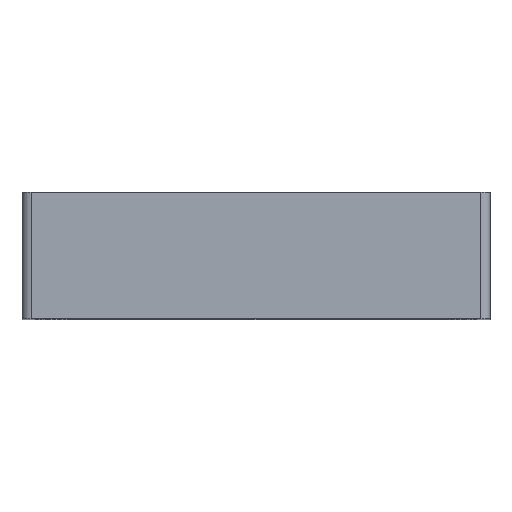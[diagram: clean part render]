
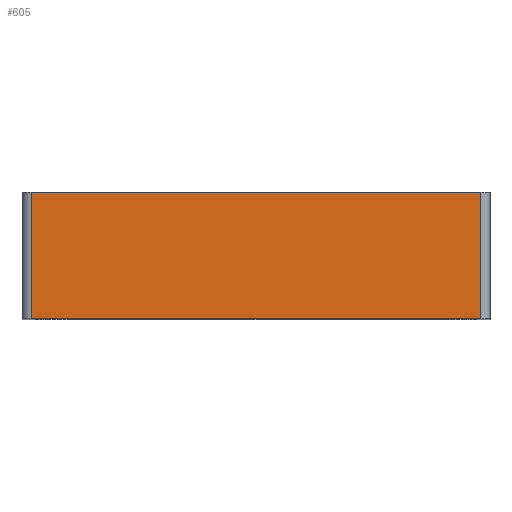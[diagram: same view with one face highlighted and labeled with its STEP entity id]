
A CAD part, top view. The second image highlights one B-rep face of the part: STEP entity #605.
In plain terms, the highlighted planar face has unit normal (0, 0, 1).
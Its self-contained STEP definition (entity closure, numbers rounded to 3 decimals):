
#41=PLANE('',#681);
#71=FACE_OUTER_BOUND('',#108,.T.);
#108=EDGE_LOOP('',(#529,#530,#531,#532));
#117=LINE('',#867,#169);
#122=LINE('',#879,#174);
#139=LINE('',#948,#191);
#168=LINE('',#1030,#220);
#169=VECTOR('',#689,10.);
#174=VECTOR('',#700,10.);
#191=VECTOR('',#763,10.);
#220=VECTOR('',#858,10.);
#254=VERTEX_POINT('',#864);
#255=VERTEX_POINT('',#866);
#259=VERTEX_POINT('',#878);
#288=VERTEX_POINT('',#946);
#310=EDGE_CURVE('',#254,#255,#117,.T.);
#316=EDGE_CURVE('',#255,#259,#122,.T.);
#351=EDGE_CURVE('',#259,#288,#139,.T.);
#392=EDGE_CURVE('',#288,#254,#168,.T.);
#529=ORIENTED_EDGE('',*,*,#310,.F.);
#530=ORIENTED_EDGE('',*,*,#392,.F.);
#531=ORIENTED_EDGE('',*,*,#351,.F.);
#532=ORIENTED_EDGE('',*,*,#316,.F.);
#605=ADVANCED_FACE('',(#71),#41,.T.);
#681=AXIS2_PLACEMENT_3D('',#1029,#856,#857);
#689=DIRECTION('',(0.,1.,0.));
#700=DIRECTION('',(1.,0.,0.));
#763=DIRECTION('',(0.,-1.,0.));
#856=DIRECTION('center_axis',(0.,0.,1.));
#857=DIRECTION('ref_axis',(-1.,0.,0.));
#858=DIRECTION('',(-1.,0.,0.));
#864=CARTESIAN_POINT('',(-98.,-27.,0.));
#866=CARTESIAN_POINT('',(-98.,0.,0.));
#867=CARTESIAN_POINT('',(-98.,0.,0.));
#878=CARTESIAN_POINT('',(-2.,0.,0.));
#879=CARTESIAN_POINT('',(-100.,0.,0.));
#946=CARTESIAN_POINT('',(-2.,-27.,0.));
#948=CARTESIAN_POINT('',(-2.,0.,0.));
#1029=CARTESIAN_POINT('Origin',(0.,0.,0.));
#1030=CARTESIAN_POINT('',(-100.,-27.,0.));
